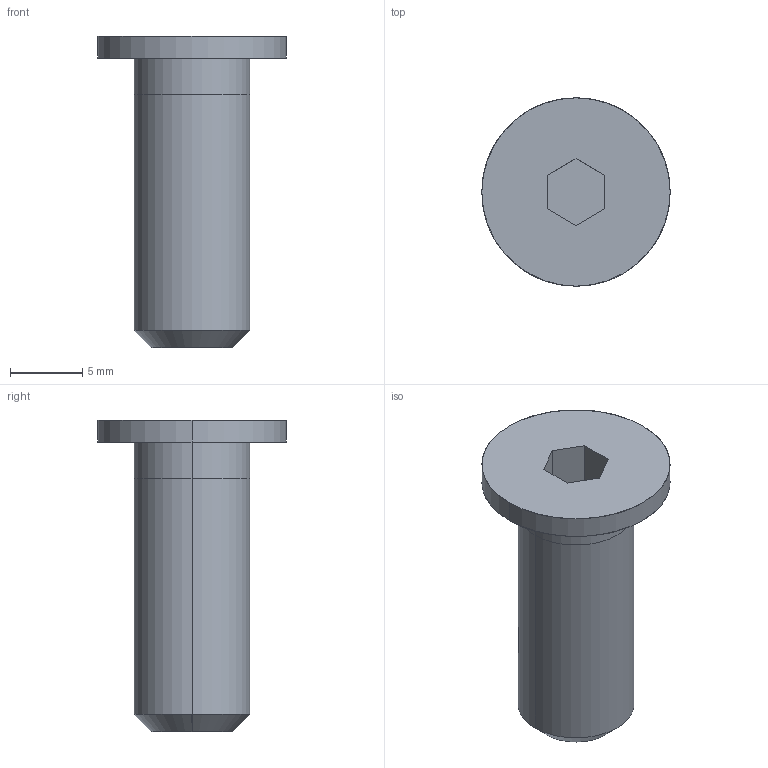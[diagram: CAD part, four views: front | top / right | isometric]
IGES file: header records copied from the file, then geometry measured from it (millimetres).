
Global section: file name: E:\UnigraphicsGraphicData\MISUMI_PRESS-PARTS\IGES\3d_cbss8-20_03500_r00.igs; native system: NX V5.0; preprocessor: UGS NX IGES V5.0; author: MISUMI; date: 20110105.160203; units: millimetre
Bounding box: 13 x 13 x 21.5 mm (x, y, z)
Surface area: 879.9 mm2 (no closed solid volume)
Topology: 0 solids, 0 shells, 18 faces, 100 edges, 100 vertices
Faces by surface type: bspline 18
